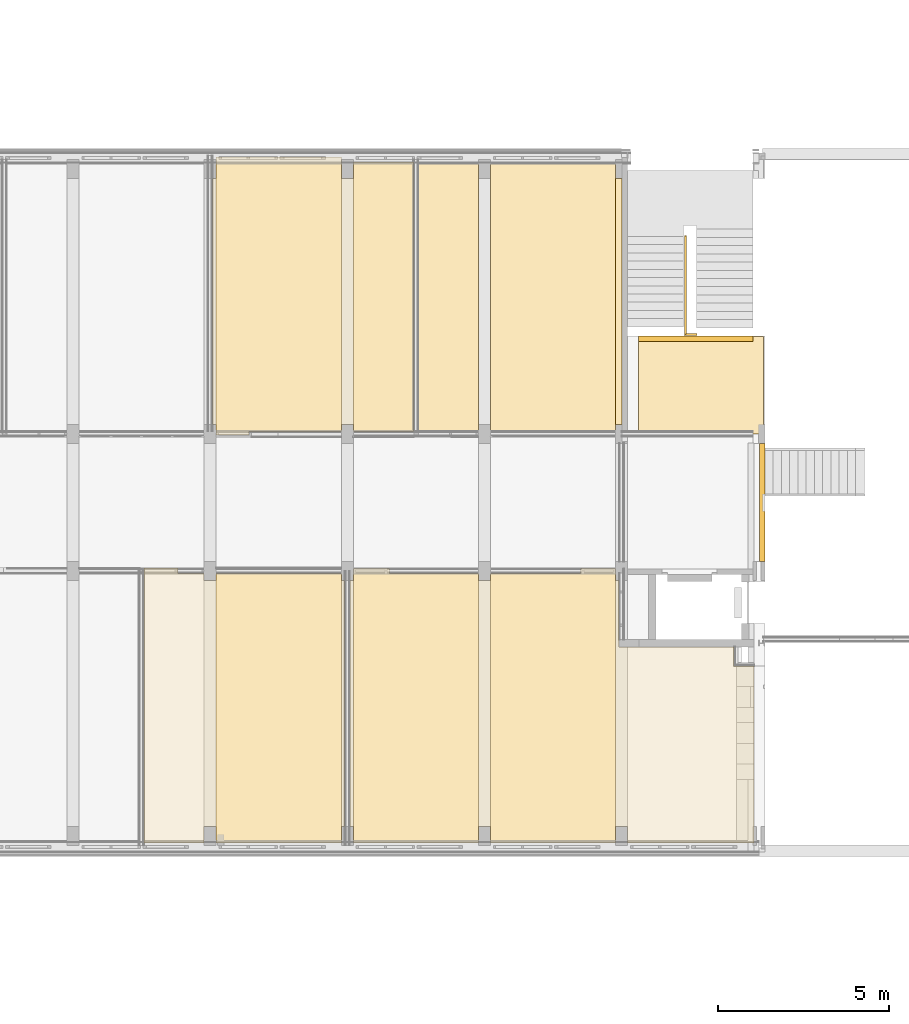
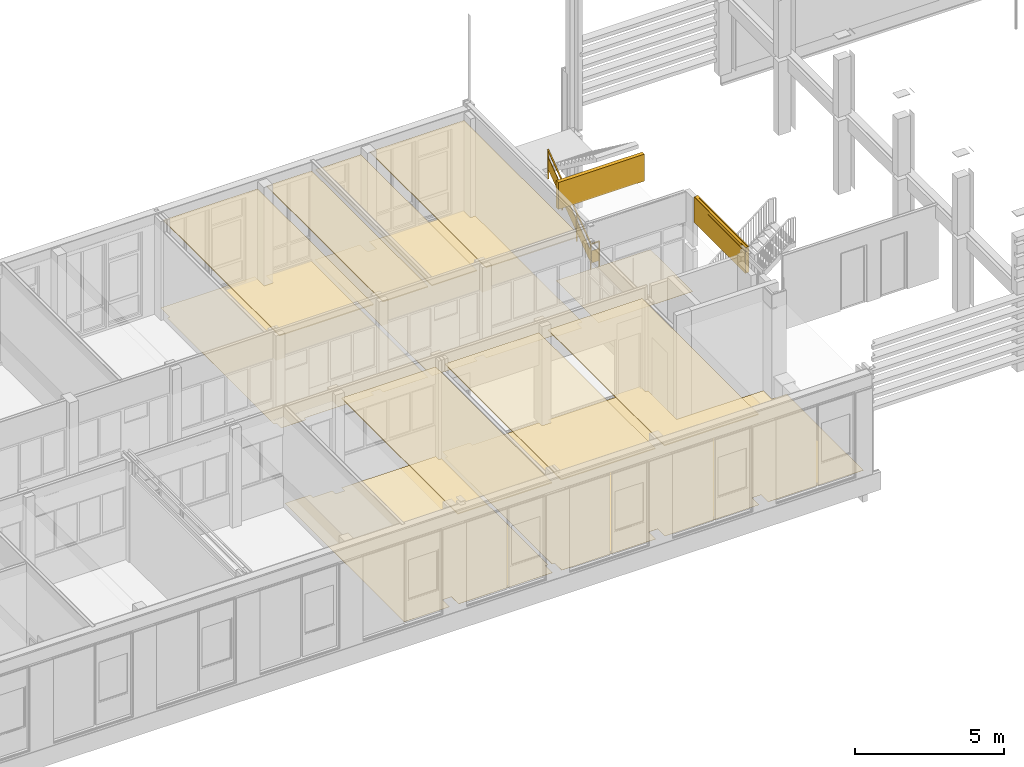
# One storey, part 84 of 94: 14 coverings, 1 railing.
"""IFC2X3 building model written with IfcOpenShell, lengths in millimetres."""

from ifc_helpers import new_model, entity, si_unit, converted_unit, derived_unit, money_unit, direction, frame, origin_with_axes, place, context, subcontext, project, spatial, faceted_brep, material, material_list, type_object, element, save


model = new_model("IFC2X3")

# Units and contexts
model_context = context("Model", 3, precision=0.01, world=origin_with_axes(), true_north=direction((0.0, 1.0)))
body_context = subcontext(model_context, "Body", "Model", "MODEL_VIEW")
ifc_project = project(units=[si_unit("LENGTHUNIT", "METRE", prefix="MILLI"), si_unit("AREAUNIT", "SQUARE_METRE"), si_unit("VOLUMEUNIT", "CUBIC_METRE"), converted_unit("PLANEANGLEUNIT", "DEGREE", entity("IfcPlaneAngleMeasure", 0.0174532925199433), si_unit("PLANEANGLEUNIT", "RADIAN"), dimensions=[0, 0, 0, 0, 0, 0, 0]), money_unit("EUR"), converted_unit("TIMEUNIT", "Year", entity("IfcTimeMeasure", 31557600.0), si_unit("TIMEUNIT", "SECOND"), dimensions=[0, 0, 1, 0, 0, 0, 0]), si_unit("MASSUNIT", "GRAM", prefix="KILO"), si_unit("THERMODYNAMICTEMPERATUREUNIT", "DEGREE_CELSIUS"), si_unit("LUMINOUSINTENSITYUNIT", "LUMEN"), si_unit("ENERGYUNIT", "JOULE", prefix="MEGA"), derived_unit("THERMALCONDUCTANCEUNIT", [(si_unit("POWERUNIT", "WATT"), 1), (si_unit("LENGTHUNIT", "METRE"), -1), (si_unit("THERMODYNAMICTEMPERATUREUNIT", "KELVIN"), -1)]), derived_unit("SPECIFICHEATCAPACITYUNIT", [(si_unit("ENERGYUNIT", "JOULE"), 1), (si_unit("MASSUNIT", "GRAM", prefix="KILO"), -1), (si_unit("THERMODYNAMICTEMPERATUREUNIT", "KELVIN"), -1)]), derived_unit("MASSDENSITYUNIT", [(si_unit("MASSUNIT", "GRAM", prefix="KILO"), 1), (si_unit("VOLUMEUNIT", "CUBIC_METRE"), -1)])], contexts=[model_context])

# Site, building, storey
site_placement = place(None, origin_with_axes())
site = spatial("IfcSite", under=ifc_project, at=site_placement, Name="<site naam>", CompositionType="ELEMENT")
building_placement = place(site_placement, origin_with_axes())
building = spatial("IfcBuilding", under=site, at=building_placement, Name="<Naam gebouw>", CompositionType="ELEMENT")
storey_placement = place(building_placement, frame((0.0, 0.0, 4250.0), z_axis=(0.0, 0.0, 1.0), x_axis=(1.0, 0.0, 0.0)))
storey = spatial("IfcBuildingStorey", under=building, at=storey_placement, Name="01 1e verdieping", CompositionType="ELEMENT", Elevation=4250.0)

# Coverings
ifc_material_1 = material(Name="systeemplafond 600*600 kleur wit")
covering_type_1 = type_object("IfcCoveringType", Name="PA-01a 40", PredefinedType="CEILING")
covering_1_placement = place(storey_placement, frame((43825.00000778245, 7926.689853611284, 3700.0), z_axis=(0.0, 0.0, 1.0), x_axis=(1.0, 0.0, 0.0)))
element("IfcCovering", 1, at=covering_1_placement, inside=storey, type_object=covering_type_1, material=ifc_material_1, Name="45_Vloer_PA-01a", PredefinedType="CEILING", context=body_context, shape_type="Brep", body=[
    faceted_brep([(-3649.999824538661, 0.0, 0.0), (0.0, 0.0, 0.0), (0.0, 0.0, -40.00000000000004), (-3649.999824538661, 0.0, -40.00000000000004), (-3649.999824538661, -7805.291124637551, 0.0), (0.0, -7805.291124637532, 0.0), (0.0, -7805.291124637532, -40.00000000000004), (-3649.999824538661, -7805.291124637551, -40.00000000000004)], [[[0, 1, 2, 3]], [[1, 0, 4, 5]], [[1, 5, 6, 2]], [[3, 2, 6, 7]], [[4, 0, 3, 7]], [[5, 4, 7, 6]]]),
])
covering_2_placement = place(storey_placement, frame((36174.99983398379, 19455.39868278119, 3700.0), z_axis=(0.0, 0.0, 1.0), x_axis=(1.0, 0.0, 0.0)))
element("IfcCovering", 2, at=covering_2_placement, inside=storey, type_object=covering_type_1, material=ifc_material_1, Name="45_Vloer_PA-01a", PredefinedType="CEILING", context=body_context, shape_type="Brep", body=[
    faceted_brep([(0.0, -7363.637768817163, 40.00000000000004), (0.0, -7363.637768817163, 0.0), (3650.000071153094, -7363.637768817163, 0.0), (3650.000071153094, -7363.637768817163, 40.00000000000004), (0.0, 434.0000461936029, 40.00000000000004), (0.0, 434.0000461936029, 0.0), (3650.000071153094, 434.0000461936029, 0.0), (3650.000071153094, 434.0000461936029, 40.00000000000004)], [[[0, 1, 2, 3]], [[4, 5, 1, 0]], [[5, 6, 2, 1]], [[3, 2, 6, 7]], [[4, 0, 3, 7]], [[7, 6, 5, 4]]]),
])
covering_3_placement = place(storey_placement, frame((42074.99986503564, 12080.29523690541, 3700.0), z_axis=(0.0, 0.0, 1.0), x_axis=(1.0, 0.0, 0.0)))
element("IfcCovering", 3, at=covering_3_placement, inside=storey, type_object=covering_type_1, material=ifc_material_1, Name="45_Vloer_PA-01a", PredefinedType="CEILING", context=body_context, shape_type="Brep", body=[
    faceted_brep([(0.0, 0.0, 40.00000000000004), (0.0, 0.0, 0.0), (1750.000134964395, 0.0, 0.0), (1750.000134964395, 0.0, 40.00000000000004), (0.0, 7809.103492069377, 40.00000000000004), (0.0, 7809.103492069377, 0.0), (1750.000134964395, 7809.103492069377, 0.0), (1750.000134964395, 7809.103492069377, 40.00000000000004)], [[[0, 1, 2, 3]], [[4, 5, 1, 0]], [[2, 1, 5, 6]], [[3, 2, 6, 7]], [[4, 0, 3, 7]], [[7, 6, 5, 4]]]),
])
covering_4_placement = place(storey_placement, frame((44175.00006586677, 555.3987640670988, 3700.0), z_axis=(0.0, 0.0, 1.0), x_axis=(1.0, 0.0, 0.0)))
element("IfcCovering", 4, at=covering_4_placement, inside=storey, type_object=covering_type_1, material=ifc_material_1, Name="45_Vloer_PA-01a", PredefinedType="CEILING", context=body_context, shape_type="Brep", body=[
    faceted_brep([(3649.999934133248, -434.0000350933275, 0.0), (0.0, -434.0000350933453, 0.0), (0.0, -434.0000350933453, -40.00000000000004), (3649.999934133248, -434.0000350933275, -40.00000000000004), (0.0, 7371.291150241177, 0.0), (3649.999913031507, 7371.291150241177, 0.0), (0.0, 7371.291150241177, -40.00000000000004), (3649.999913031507, 7371.291150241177, -40.00000000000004)], [[[0, 1, 2, 3]], [[4, 1, 0, 5]], [[1, 4, 6, 2]], [[3, 2, 6, 7]], [[5, 0, 3, 7]], [[4, 5, 7, 6]]]),
])
covering_5_placement = place(storey_placement, frame((39825.00006176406, 7926.689862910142, 3700.0), z_axis=(0.0, 0.0, 1.0), x_axis=(1.0, 0.0, 0.0)))
element("IfcCovering", 5, at=covering_5_placement, inside=storey, type_object=covering_type_1, material=ifc_material_1, Name="45_Vloer_PA-01a", PredefinedType="CEILING", context=body_context, shape_type="Brep", body=[
    faceted_brep([(-3650.00007109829, 0.0, 0.0), (0.0, 0.0, 0.0), (0.0, 0.0, -40.00000000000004), (-3650.00007109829, 0.0, -40.00000000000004), (-3650.00007109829, -7805.291133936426, 0.0), (0.0, -7805.291133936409, 0.0), (0.0, -7805.291133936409, -40.00000000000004), (-3650.00007109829, -7805.291133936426, -40.00000000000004)], [[[0, 1, 2, 3]], [[1, 0, 4, 5]], [[1, 5, 6, 2]], [[3, 2, 6, 7]], [[4, 0, 3, 7]], [[5, 4, 7, 6]]]),
])
covering_6_placement = place(storey_placement, frame((40174.99994574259, 12280.39889847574, 3700.0), z_axis=(0.0, 0.0, 1.0), x_axis=(1.0, 0.0, 0.0)))
element("IfcCovering", 6, at=covering_6_placement, inside=storey, type_object=covering_type_1, material=ifc_material_1, Name="45_Vloer_PA-01a", PredefinedType="CEILING", context=body_context, shape_type="Brep", body=[
    faceted_brep([(0.0, -200.1037069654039, 40.00000000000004), (0.0, -200.1037069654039, 0.0), (1749.999956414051, -200.1037069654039, 0.0), (1749.999956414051, -200.1037069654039, 40.00000000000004), (0.0, 7608.999830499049, 40.00000000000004), (0.0, 7608.999830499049, 0.0), (1749.999956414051, 7608.999830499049, 0.0), (1749.999956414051, 7608.999830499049, 40.00000000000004)], [[[0, 1, 2, 3]], [[4, 5, 1, 0]], [[1, 5, 6, 2]], [[3, 2, 6, 7]], [[0, 3, 7, 4]], [[7, 6, 5, 4]]]),
])
covering_7_placement = place(storey_placement, frame((44175.00000255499, 12280.39897736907, 3700.0), z_axis=(0.0, 0.0, 1.0), x_axis=(1.0, 0.0, 0.0)))
element("IfcCovering", 7, at=covering_7_placement, inside=storey, type_object=covering_type_1, material=ifc_material_1, Name="45_Vloer_PA-01a", PredefinedType="CEILING", context=body_context, shape_type="Brep", body=[
    faceted_brep([(0.0, -200.1037404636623, 40.00000000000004), (0.0, -200.1037404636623, 0.0), (3649.999782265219, -200.1037404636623, 0.0), (3649.999782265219, -200.1037404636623, 40.00000000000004), (0.0, 7608.999751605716, 40.00000000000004), (0.0, 7608.999751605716, 0.0), (3649.999782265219, 7608.999751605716, 0.0), (3649.999782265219, 7608.999751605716, 40.00000000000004)], [[[0, 1, 2, 3]], [[4, 5, 1, 0]], [[1, 5, 6, 2]], [[3, 2, 6, 7]], [[0, 3, 7, 4]], [[7, 6, 5, 4]]]),
])

# Railing
ifc_material_2 = material(Name="staal balustrade")
ifc_material_3 = material(Name="hout AFW")
ifc_material_list = material_list([ifc_material_2, ifc_material_2, ifc_material_2, ifc_material_2, ifc_material_2, ifc_material_2, ifc_material_3, ifc_material_2, ifc_material_3, ifc_material_2, ifc_material_3, ifc_material_2, ifc_material_3])
railing_type = type_object("IfcRailingType", Name="Railing Type", PredefinedType="NOTDEFINED")
railing_placement = place(storey_placement, frame((50190.00000000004, 14849.5, 0.0), z_axis=(0.0, 0.0, 1.0), x_axis=(1.0, 0.0, 0.0)))
element("IfcRailing", 8, at=railing_placement, inside=storey, type_object=railing_type, material=ifc_material_list, Name="34_Reling_", PredefinedType="NOTDEFINED", context=body_context, shape_type="Brep", body=[
    faceted_brep([(-9.99999999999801, 75.00000000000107, -199.9999999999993), (-9.99999999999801, 25.00000000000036, -199.9999999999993), (-9.99999999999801, 25.00000000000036, 980.0000000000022), (-9.99999999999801, 75.00000000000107, 980.0000000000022), (9.99999999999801, 75.00000000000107, -199.9999999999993), (9.99999999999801, 25.00000000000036, -199.9999999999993), (9.99999999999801, 25.00000000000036, 980.0000000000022), (9.99999999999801, 75.00000000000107, 980.0000000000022)], [[[0, 1, 2, 3]], [[0, 4, 5, 1]], [[1, 5, 6, 2]], [[3, 2, 6, 7]], [[4, 0, 3, 7]], [[5, 4, 7, 6]]]),
    faceted_brep([(0.0, 25.00000000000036, 1000.000000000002), (0.0, 25.00000000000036, 970.0000000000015), (9.99999999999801, 25.00000000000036, 970.0000000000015), (9.99999999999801, 25.00000000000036, 1000.000000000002), (0.0, 75.00000000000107, 1000.000000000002), (0.0, 75.00000000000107, 970.0000000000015), (10.00000000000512, 75.00000000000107, 970.0000000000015), (10.00000000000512, 75.00000000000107, 1000.000000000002)], [[[0, 1, 2, 3]], [[0, 4, 5, 1]], [[1, 5, 6, 2]], [[3, 2, 6, 7]], [[4, 0, 3, 7]], [[5, 4, 7, 6]]]),
    faceted_brep([(-339.9999995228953, 75.00000046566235, -184.6467097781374), (-339.9999995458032, 25.00000046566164, -201.0963457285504), (-339.9999995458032, 25.00000046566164, 978.9036542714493), (-339.9999995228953, 75.00000046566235, 995.3532902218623), (-319.9999995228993, 75.00000046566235, -184.6467098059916), (-319.9999995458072, 25.00000046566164, -201.0963457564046), (-319.9999995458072, 25.00000046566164, 978.9036542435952), (-319.9999995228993, 75.00000046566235, 995.3532901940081)], [[[0, 1, 2, 3]], [[0, 4, 5, 1]], [[1, 5, 6, 2]], [[3, 2, 6, 7]], [[4, 0, 3, 7]], [[5, 4, 7, 6]]]),
    faceted_brep([(-305.0000112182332, 2919.999992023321, 1931.878472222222), (-355.0000112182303, 2919.999991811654, 1931.878472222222), (-355.0000112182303, 2919.999991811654, 3111.878472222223), (-305.0000112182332, 2919.999992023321, 3111.878472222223), (-305.0000111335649, 2899.999992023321, 1917.121527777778), (-355.0000111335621, 2899.999991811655, 1917.121527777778), (-355.0000111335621, 2899.999991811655, 3097.121527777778), (-305.0000111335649, 2899.999992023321, 3097.121527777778)], [[[0, 1, 2, 3]], [[0, 4, 5, 1]], [[1, 5, 6, 2]], [[3, 2, 6, 7]], [[4, 0, 3, 7]], [[5, 4, 7, 6]]]),
    faceted_brep([(-305.000011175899, 2909.999991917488, 3124.5), (-305.000011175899, 2927.811684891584, 3100.359917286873), (-305.000011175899, 2935.858379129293, 3106.297148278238), (-305.000011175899, 2918.046686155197, 3130.437230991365), (-355.0000111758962, 2909.999991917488, 3124.5), (-355.0000111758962, 2927.811684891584, 3100.359917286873), (-355.0000111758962, 2935.858379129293, 3106.297148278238), (-355.0000111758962, 2918.046686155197, 3130.437230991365)], [[[0, 1, 2, 3]], [[0, 4, 5, 1]], [[1, 5, 6, 2]], [[3, 2, 6, 7]], [[4, 0, 3, 7]], [[5, 4, 7, 6]]]),
    faceted_brep([(-327.694957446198, 75.00000000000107, 969.9999999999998), (-309.8832644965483, 75.00000000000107, 1000.0), (0.0, 75.00000000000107, 1000.0), (0.0, 75.00000000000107, 969.9999999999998), (-350.1167355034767, 25.00000000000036, 1000.0), (-367.9284284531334, 25.00000000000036, 969.9999999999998), (0.0, 25.00000000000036, 1000.0), (0.0, 25.00000000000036, 969.9999999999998)], [[[0, 1, 2, 3]], [[4, 1, 0, 5]], [[1, 4, 6, 2]], [[6, 7, 3, 2]], [[5, 0, 3, 7]], [[4, 5, 7, 6]]]),
    faceted_brep([(-320.0000000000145, 40.00000000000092, 200.0000000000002), (-9.99999999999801, 40.00000000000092, 200.0000000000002), (-9.99999999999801, 40.00000000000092, 700.0000000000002), (-320.0000000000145, 40.00000000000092, 700.0000000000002), (-9.99999999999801, 60.0000000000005, 200.0000000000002), (-320.0000000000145, 60.0000000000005, 200.0000000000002), (-9.99999999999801, 60.0000000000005, 700.0000000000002), (-320.0000000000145, 60.0000000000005, 700.0000000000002)], [[[0, 1, 2, 3]], [[4, 1, 0, 5]], [[6, 2, 1, 4]], [[3, 2, 6, 7]], [[0, 3, 7, 5]], [[6, 4, 5, 7]]]),
    faceted_brep([(-304.9999991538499, 70.11673747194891, 1029.100022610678), (-304.9999992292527, 87.92843042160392, 1004.959939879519), (-305.0000112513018, 2927.81168503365, 3100.359917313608), (-305.000011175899, 2909.999992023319, 3124.5), (-354.9999990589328, 47.69495920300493, 975.273784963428), (-354.99999898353, 29.88326625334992, 999.4138676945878), (-355.000011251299, 2927.811684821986, 3100.359917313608), (-355.0000111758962, 2909.999991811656, 3124.5)], [[[0, 1, 2, 3]], [[4, 1, 0, 5]], [[1, 4, 6, 2]], [[2, 6, 7, 3]], [[5, 0, 3, 7]], [[4, 5, 7, 6]]]),
    faceted_brep([(-340.0000030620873, 993.3333312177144, 910.2928240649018), (-339.9999991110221, 60.00000088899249, 221.6354167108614), (-339.9999991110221, 60.00000088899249, 721.6354167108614), (-340.0000030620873, 993.3333312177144, 1410.292824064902), (-319.9999991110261, 60.00000097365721, 221.6354167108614), (-320.0000030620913, 993.3333313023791, 910.2928240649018), (-319.9999991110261, 60.00000097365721, 721.6354167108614), (-320.0000030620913, 993.3333313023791, 1410.292824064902)], [[[0, 1, 2, 3]], [[4, 1, 0, 5]], [[6, 2, 1, 4]], [[3, 2, 6, 7]], [[0, 3, 7, 5]], [[6, 4, 5, 7]]]),
    faceted_brep([(-305.0000031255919, 1008.333331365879, 521.3605324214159), (-355.0000031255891, 1008.333331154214, 521.3605324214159), (-355.0000031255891, 1008.333331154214, 1721.360532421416), (-305.0000031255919, 1008.333331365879, 1721.360532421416), (-305.0000030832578, 998.3333313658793, 513.9820601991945), (-355.000003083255, 998.333331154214, 513.9820601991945), (-355.000003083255, 998.333331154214, 1713.982060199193), (-305.0000030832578, 998.3333313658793, 1713.982060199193)], [[[0, 1, 2, 3]], [[0, 4, 5, 1]], [[1, 5, 6, 2]], [[3, 2, 6, 7]], [[4, 0, 3, 7]], [[5, 4, 7, 6]]]),
    faceted_brep([(-340.000007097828, 1946.666661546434, 1613.707175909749), (-340.0000031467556, 1013.333331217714, 925.0497685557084), (-340.0000031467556, 1013.333331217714, 1425.049768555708), (-340.000007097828, 1946.666661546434, 2113.707175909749), (-320.0000031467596, 1013.333331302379, 925.0497685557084), (-320.0000070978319, 1946.666661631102, 1613.707175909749), (-320.0000031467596, 1013.333331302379, 1425.049768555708), (-320.0000070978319, 1946.666661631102, 2113.707175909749)], [[[0, 1, 2, 3]], [[4, 1, 0, 5]], [[6, 2, 1, 4]], [[3, 2, 6, 7]], [[0, 3, 7, 5]], [[6, 4, 5, 7]]]),
    faceted_brep([(-305.0000071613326, 1961.666661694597, 1224.774884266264), (-355.0000071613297, 1961.666661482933, 1224.774884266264), (-355.0000071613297, 1961.666661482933, 2424.774884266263), (-305.0000071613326, 1961.666661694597, 2424.774884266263), (-305.0000071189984, 1951.666661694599, 1217.396412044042), (-355.0000071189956, 1951.666661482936, 1217.396412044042), (-355.0000071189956, 1951.666661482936, 2417.396412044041), (-305.0000071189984, 1951.666661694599, 2417.396412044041)], [[[0, 1, 2, 3]], [[0, 4, 5, 1]], [[1, 5, 6, 2]], [[3, 2, 6, 7]], [[4, 0, 3, 7]], [[5, 4, 7, 6]]]),
    faceted_brep([(-340.0000111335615, 2899.999991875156, 2317.121527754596), (-340.0000071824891, 1966.666661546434, 1628.464120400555), (-340.0000071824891, 1966.666661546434, 2128.464120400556), (-340.0000111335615, 2899.999991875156, 2817.121527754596), (-320.0000071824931, 1966.666661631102, 1628.464120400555), (-320.0000111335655, 2899.999991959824, 2317.121527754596), (-320.0000071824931, 1966.666661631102, 2128.464120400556), (-320.0000111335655, 2899.999991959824, 2817.121527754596)], [[[0, 1, 2, 3]], [[4, 1, 0, 5]], [[6, 2, 1, 4]], [[3, 2, 6, 7]], [[0, 3, 7, 5]], [[6, 4, 5, 7]]]),
])

# Coverings
ifc_material_4 = material(Name="Behoud natuursteen tegels")
covering_type_2 = type_object("IfcCoveringType", Name="VA-06 3", PredefinedType="CEILING")
covering_8_placement = place(storey_placement, frame((48485.10733893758, 11994.60127102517, 0.0), z_axis=(0.0, 0.0, 1.0), x_axis=(1.0, 0.0, 0.0)))
element("IfcCovering", 9, at=covering_8_placement, inside=storey, type_object=covering_type_2, material=ifc_material_4, Name="43_Vloer_VA-06", PredefinedType="CEILING", context=body_context, shape_type="Brep", body=[
    faceted_brep([(0.0, 0.0, 3.000000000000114), (0.0, 0.0, 0.0), (3650.353887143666, 0.0, 0.0), (3650.353887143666, 0.0, 3.000000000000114), (0.0, 2849.499999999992, 3.000000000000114), (0.0, 2849.499999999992, 0.0), (3650.353887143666, 2849.499999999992, 0.0), (3650.353887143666, 2849.499999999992, 3.000000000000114)], [[[0, 1, 2, 3]], [[4, 5, 1, 0]], [[2, 1, 5, 6]], [[3, 2, 6, 7]], [[4, 0, 3, 7]], [[7, 6, 5, 4]]]),
])
ifc_material_5 = material(Name="Vinyl type 01a")
covering_type_3 = type_object("IfcCoveringType", Name="VA-01a 3", PredefinedType="CEILING")
covering_9_placement = place(storey_placement, frame((34075.0001417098, 7922.875169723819, 19.99999999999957), z_axis=(0.0, 0.0, 1.0), x_axis=(1.0, 0.0, 0.0)))
element("IfcCovering", 10, at=covering_9_placement, inside=storey, type_object=covering_type_3, material=ifc_material_5, Name="43_Vloer_VA-01a", PredefinedType="CEILING", context=body_context, shape_type="Brep", body=[
    faceted_brep([(0.0, -7847.892061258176, 3.000000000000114), (0.0, -7847.892061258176, 0.0), (1749.999918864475, -7847.892061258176, 0.0), (1749.999918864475, -7847.892061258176, 3.000000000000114), (0.0, 162.1248302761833, 3.000000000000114), (0.0, 162.1248302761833, 0.0), (992.2704905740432, 162.1248302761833, 0.0), (992.2704905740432, 0.1534304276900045, 0.0), (1749.999918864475, 0.2705036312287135, 0.0), (1750.03054191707, -197.9292517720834, 0.0), (2100.030549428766, -197.8752460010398, 0.0), (2099.999926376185, 0.3245094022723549, 0.0), (5749.999902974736, 0.88854330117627, 0.0), (5749.999902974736, -197.8752460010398, 0.0), (5849.999837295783, -197.8752460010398, 0.0), (5849.999837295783, -7372.875103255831, 0.0), (5749.999902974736, -7372.875103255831, 0.0), (5749.999902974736, -7847.892061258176, 0.0), (2099.999926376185, -7847.892061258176, 0.0), (2099.831855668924, -7372.875221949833, 0.0), (1749.831729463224, -7372.999138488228, 0.0), (1749.831729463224, -7372.999138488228, 3.000000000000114), (2099.831855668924, -7372.875221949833, 3.000000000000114), (2099.999926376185, -7847.892061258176, 3.000000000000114), (5749.999902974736, -7847.892061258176, 3.000000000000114), (5749.999902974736, -7372.875103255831, 3.000000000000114), (5849.999837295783, -7372.875103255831, 3.000000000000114), (5849.999837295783, -197.8752460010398, 3.000000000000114), (5749.999902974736, -197.8752460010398, 3.000000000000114), (5749.999902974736, 0.88854330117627, 3.000000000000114), (2099.999926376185, 0.3245094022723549, 3.000000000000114), (2100.030549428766, -197.8752460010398, 3.000000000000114), (1750.03054191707, -197.9292517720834, 3.000000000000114), (1749.999918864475, 0.2705036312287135, 3.000000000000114), (992.2704905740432, 0.1534304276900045, 3.000000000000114), (992.2704905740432, 162.1248302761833, 3.000000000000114)], [[[0, 1, 2, 3]], [[4, 5, 1, 0]], [[1, 5, 6, 7, 8, 9, 10, 11, 12, 13, 14, 15, 16, 17, 18, 19, 20, 2]], [[3, 2, 20, 21]], [[4, 0, 3, 21, 22, 23, 24, 25, 26, 27, 28, 29, 30, 31, 32, 33, 34, 35]], [[35, 6, 5, 4]], [[34, 7, 6, 35]], [[33, 8, 7, 34]], [[32, 9, 8, 33]], [[31, 10, 9, 32]], [[30, 11, 10, 31]], [[29, 12, 11, 30]], [[28, 13, 12, 29]], [[27, 14, 13, 28]], [[26, 15, 14, 27]], [[25, 16, 15, 26]], [[24, 17, 16, 25]], [[23, 18, 17, 24]], [[22, 19, 18, 23]], [[21, 20, 19, 22]]]),
])
covering_10_placement = place(storey_placement, frame((40174.84544567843, 7724.999905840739, 0.0), z_axis=(0.0, 0.0, 1.0), x_axis=(1.0, 0.0, 0.0)))
element("IfcCovering", 11, at=covering_10_placement, inside=storey, type_object=covering_type_3, material=ifc_material_5, Name="43_Vloer_VA-01a", PredefinedType="CEILING", context=body_context, shape_type="Brep", body=[
    faceted_brep([(0.0, 0.0, 3.000000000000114), (0.0, 0.0, 0.0), (-100.0000087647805, 0.0, 0.0), (-100.0000087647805, 0.0, 3.000000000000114), (0.0, 350.0001239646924, 3.000000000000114), (0.0, 350.0001239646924, 0.0), (1058.317738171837, 350.0001239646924, 0.0), (1058.317738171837, 198.9814997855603, 0.0), (3650.000040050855, 199.382078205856, 0.0), (3650.030638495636, -0.05392043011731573, 0.0), (4000.030762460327, 0.0, 0.0), (3999.999977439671, 199.4359986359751, 0.0), (6627.399806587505, 199.842174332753, 0.0), (6627.399806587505, 350.0001239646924, 0.0), (7650.000017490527, 350.0001239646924, 0.0), (7650.000017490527, 200.0002041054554, 0.0), (7650.011585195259, 200.0002041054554, 0.0), (7650.042556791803, 0.0, 0.0), (7750.000026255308, 0.0, 0.0), (7750.000026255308, -1933.999919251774, 0.0), (11107.65455432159, -1933.999919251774, 0.0), (11107.65455432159, -2496.499919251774, 0.0), (11689.99999843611, -2496.499919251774, 0.0), (11689.99999843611, -7650.016809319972, 0.0), (8000.000141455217, -7650.016809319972, 0.0), (8000.000141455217, -7174.999835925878, 0.0), (7650.000017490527, -7174.999835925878, 0.0), (7650.000017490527, -7650.016809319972, 0.0), (3999.999977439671, -7650.016809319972, 0.0), (3999.999977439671, -7174.999835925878, 0.0), (3650.000040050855, -7174.999835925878, 0.0), (3650.000040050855, -7650.016809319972, 0.0), (0.0, -7650.016809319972, 0.0), (0.0, -7174.999835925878, 0.0), (-100.0000087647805, -7174.999835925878, 0.0), (-100.0000087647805, -7174.999835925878, 3.000000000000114), (0.0, -7174.999835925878, 3.000000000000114), (0.0, -7650.016809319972, 3.000000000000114), (3650.000040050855, -7650.016809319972, 3.000000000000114), (3650.000040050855, -7174.999835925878, 3.000000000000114), (3999.999977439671, -7174.999835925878, 3.000000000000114), (3999.999977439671, -7650.016809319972, 3.000000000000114), (7650.000017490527, -7650.016809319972, 3.000000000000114), (7650.000017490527, -7174.999835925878, 3.000000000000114), (8000.000141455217, -7174.999835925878, 3.000000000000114), (8000.000141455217, -7650.016809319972, 3.000000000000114), (11689.99999843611, -7650.016809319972, 3.000000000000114), (11689.99999843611, -2496.499919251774, 3.000000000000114), (11107.65455432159, -2496.499919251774, 3.000000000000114), (11107.65455432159, -1933.999919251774, 3.000000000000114), (7750.000026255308, -1933.999919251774, 3.000000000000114), (7750.000026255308, 0.0, 3.000000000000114), (7650.042556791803, 0.0, 3.000000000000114), (7650.011585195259, 200.0002041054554, 3.000000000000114), (7650.000017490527, 200.0002041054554, 3.000000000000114), (7650.000017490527, 350.0001239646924, 3.000000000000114), (6627.399806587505, 350.0001239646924, 3.000000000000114), (6627.399806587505, 199.842174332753, 3.000000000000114), (3999.999977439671, 199.4359986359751, 3.000000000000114), (4000.030762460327, 0.0, 3.000000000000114), (3650.030638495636, -0.05392043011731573, 3.000000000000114), (3650.000040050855, 199.382078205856, 3.000000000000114), (1058.317738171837, 198.9814997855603, 3.000000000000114), (1058.317738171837, 350.0001239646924, 3.000000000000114)], [[[0, 1, 2, 3]], [[4, 5, 1, 0]], [[2, 1, 5, 6, 7, 8, 9, 10, 11, 12, 13, 14, 15, 16, 17, 18, 19, 20, 21, 22, 23, 24, 25, 26, 27, 28, 29, 30, 31, 32, 33, 34]], [[3, 2, 34, 35]], [[0, 3, 35, 36, 37, 38, 39, 40, 41, 42, 43, 44, 45, 46, 47, 48, 49, 50, 51, 52, 53, 54, 55, 56, 57, 58, 59, 60, 61, 62, 63, 4]], [[63, 6, 5, 4]], [[62, 7, 6, 63]], [[61, 8, 7, 62]], [[60, 9, 8, 61]], [[59, 10, 9, 60]], [[58, 11, 10, 59]], [[57, 12, 11, 58]], [[56, 13, 12, 57]], [[55, 14, 13, 56]], [[54, 15, 14, 55]], [[53, 16, 15, 54]], [[52, 17, 16, 53]], [[51, 18, 17, 52]], [[50, 19, 18, 51]], [[49, 20, 19, 50]], [[48, 21, 20, 49]], [[47, 22, 21, 48]], [[46, 23, 22, 47]], [[45, 24, 23, 46]], [[44, 25, 24, 45]], [[43, 26, 25, 44]], [[42, 27, 26, 43]], [[41, 28, 27, 42]], [[40, 29, 28, 41]], [[39, 30, 29, 40]], [[38, 31, 30, 39]], [[37, 32, 31, 38]], [[36, 33, 32, 37]], [[35, 34, 33, 36]]]),
])
covering_11_placement = place(storey_placement, frame((42075.00002827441, 19925.00013617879, 19.99999999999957), z_axis=(0.0, 0.0, 1.0), x_axis=(1.0, 0.0, 0.0)))
element("IfcCovering", 12, at=covering_11_placement, inside=storey, type_object=covering_type_3, material=ifc_material_5, Name="43_Vloer_VA-01a", PredefinedType="CEILING", context=body_context, shape_type="Brep", body=[
    faceted_brep([(0.0, 0.0, 3.000000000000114), (0.0, 0.0, 0.0), (0.0, -7850.103451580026, 0.0), (0.0, -7850.103451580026, 3.000000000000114), (1749.99999058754, 0.0, 3.000000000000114), (1749.99999058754, 0.0, 0.0), (1749.99999058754, -475.0001649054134, 0.0), (2100.000012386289, -475.0001649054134, 0.0), (2100.000012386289, 0.0, 0.0), (5749.999952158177, 0.0, 0.0), (5749.999952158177, -475.0001649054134, 0.0), (5940.077811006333, -475.0001649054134, 0.0), (5940.077811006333, -7650.000138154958, 0.0), (5749.999952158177, -7650.000138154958, 0.0), (5749.999952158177, -7946.099280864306, 0.0), (4800.111161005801, -7946.099280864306, 0.0), (4800.111161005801, -7850.103451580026, 0.0), (2100.000012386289, -7850.103451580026, 0.0), (2100.000012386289, -7650.000138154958, 0.0), (1749.99999058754, -7650.000138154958, 0.0), (1749.99999058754, -7850.103451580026, 0.0), (1749.99999058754, -7850.103451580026, 3.000000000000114), (1749.99999058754, -7650.000138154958, 3.000000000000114), (2100.000012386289, -7650.000138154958, 3.000000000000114), (2100.000012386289, -7850.103451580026, 3.000000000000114), (4800.111161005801, -7850.103451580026, 3.000000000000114), (4800.111161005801, -7946.099280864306, 3.000000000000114), (5749.999952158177, -7946.099280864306, 3.000000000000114), (5749.999952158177, -7650.000138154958, 3.000000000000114), (5940.077811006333, -7650.000138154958, 3.000000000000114), (5940.077811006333, -475.0001649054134, 3.000000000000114), (5749.999952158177, -475.0001649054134, 3.000000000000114), (5749.999952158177, 0.0, 3.000000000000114), (2100.000012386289, 0.0, 3.000000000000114), (2100.000012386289, -475.0001649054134, 3.000000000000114), (1749.99999058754, -475.0001649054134, 3.000000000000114)], [[[0, 1, 2, 3]], [[4, 5, 1, 0]], [[2, 1, 5, 6, 7, 8, 9, 10, 11, 12, 13, 14, 15, 16, 17, 18, 19, 20]], [[3, 2, 20, 21]], [[4, 0, 3, 21, 22, 23, 24, 25, 26, 27, 28, 29, 30, 31, 32, 33, 34, 35]], [[35, 6, 5, 4]], [[34, 7, 6, 35]], [[33, 8, 7, 34]], [[32, 9, 8, 33]], [[31, 10, 9, 32]], [[30, 11, 10, 31]], [[29, 12, 11, 30]], [[28, 13, 12, 29]], [[27, 14, 13, 28]], [[26, 15, 14, 27]], [[25, 16, 15, 26]], [[24, 17, 16, 25]], [[23, 18, 17, 24]], [[22, 19, 18, 23]], [[21, 20, 19, 22]]]),
])
covering_12_placement = place(storey_placement, frame((36075.00012382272, 12275.00012242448, 19.99999999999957), z_axis=(0.0, 0.0, 1.0), x_axis=(1.0, 0.0, 0.0)))
element("IfcCovering", 13, at=covering_12_placement, inside=storey, type_object=covering_type_3, material=ifc_material_5, Name="43_Vloer_VA-01a", PredefinedType="CEILING", context=body_context, shape_type="Brep", body=[
    faceted_brep([(0.0, 0.0, 3.000000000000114), (0.0, 0.0, 0.0), (99.99988743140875, 0.0, 0.0), (99.99988743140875, 0.0, 3.000000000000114), (0.0, 7174.999872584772, 3.000000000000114), (0.0, 7174.999872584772, 0.0), (99.99988743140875, 7174.999872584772, 0.0), (99.99988743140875, 7796.516774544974, 0.0), (3749.999812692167, 7796.516774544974, 0.0), (3749.999812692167, 7174.999872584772, 0.0), (4099.999774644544, 7174.999872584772, 0.0), (4099.999774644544, 7650.000049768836, 0.0), (5850.000058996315, 7650.000049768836, 0.0), (5850.000058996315, -200.1035914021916, 0.0), (4099.999774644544, -200.1035914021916, 0.0), (4099.999774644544, 0.0, 0.0), (3749.999812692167, 0.0, 0.0), (3749.999812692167, -200.1035914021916, 0.0), (1056.519208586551, -200.1035914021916, 0.0), (1056.519208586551, -312.2895235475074, 0.0), (99.99988743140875, -312.2895235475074, 0.0), (99.99988743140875, -312.2895235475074, 3.000000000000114), (1056.519208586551, -312.2895235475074, 3.000000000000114), (1056.519208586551, -200.1035914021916, 3.000000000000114), (3749.999812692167, -200.1035914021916, 3.000000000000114), (3749.999812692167, 0.0, 3.000000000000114), (4099.999774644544, 0.0, 3.000000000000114), (4099.999774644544, -200.1035914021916, 3.000000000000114), (5850.000058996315, -200.1035914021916, 3.000000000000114), (5850.000058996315, 7650.000049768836, 3.000000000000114), (4099.999774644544, 7650.000049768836, 3.000000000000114), (4099.999774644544, 7174.999872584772, 3.000000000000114), (3749.999812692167, 7174.999872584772, 3.000000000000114), (3749.999812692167, 7796.516774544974, 3.000000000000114), (99.99988743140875, 7796.516774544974, 3.000000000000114), (99.99988743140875, 7174.999872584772, 3.000000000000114)], [[[0, 1, 2, 3]], [[4, 5, 1, 0]], [[2, 1, 5, 6, 7, 8, 9, 10, 11, 12, 13, 14, 15, 16, 17, 18, 19, 20]], [[3, 2, 20, 21]], [[4, 0, 3, 21, 22, 23, 24, 25, 26, 27, 28, 29, 30, 31, 32, 33, 34, 35]], [[35, 6, 5, 4]], [[34, 7, 6, 35]], [[33, 8, 7, 34]], [[32, 9, 8, 33]], [[31, 10, 9, 32]], [[30, 11, 10, 31]], [[29, 12, 11, 30]], [[28, 13, 12, 29]], [[27, 14, 13, 28]], [[26, 15, 14, 27]], [[25, 16, 15, 26]], [[24, 17, 16, 25]], [[23, 18, 17, 24]], [[22, 19, 18, 23]], [[21, 20, 19, 22]]]),
])
ifc_material_6 = material(Name="aftimmering/koven multiplex")
covering_type_4 = type_object("IfcCoveringType", Name="aftimmering/koven multiplex 1100", PredefinedType="CEILING")
covering_13_placement = place(storey_placement, frame((51825.00000000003, 14850.00000000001, 3000.0), z_axis=(0.0, 0.0, 1.0), x_axis=(1.0, 0.0, 0.0)))
element("IfcCovering", 14, at=covering_13_placement, inside=storey, type_object=covering_type_4, material=ifc_material_6, Name="45_Vloer_aftimmering/koven", PredefinedType="CEILING", context=body_context, shape_type="Brep", body=[
    faceted_brep([(0.0, 0.0, 1100.000000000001), (0.0, 0.0, 0.0), (-3339.470515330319, 0.0, 0.0), (-3339.470515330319, 0.0, 1100.000000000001), (0.0, -150.0000036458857, 1100.000000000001), (0.0, -150.0000036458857, 0.0), (-3339.470515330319, -150.0000036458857, 0.0), (-3339.470515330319, -150.0000036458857, 1100.000000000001)], [[[0, 1, 2, 3]], [[4, 5, 1, 0]], [[2, 1, 5, 6]], [[3, 2, 6, 7]], [[4, 0, 3, 7]], [[7, 6, 5, 4]]]),
])
ifc_material_7 = material(Name="koven gips")
covering_type_5 = type_object("IfcCoveringType", Name="koven gips 1060", PredefinedType="CEILING")
covering_14_placement = place(storey_placement, frame((52024.35855763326, 11725.00000000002, 3040.0), z_axis=(0.0, 0.0, 1.0), x_axis=(1.0, 0.0, 0.0)))
element("IfcCovering", 15, at=covering_14_placement, inside=storey, type_object=covering_type_5, material=ifc_material_7, Name="45_Vloer_koven", PredefinedType="CEILING", context=body_context, shape_type="Brep", body=[
    faceted_brep([(8.291275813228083, 0.0, 1045.99993879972), (8.291275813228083, 0.0, 894.0000386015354), (0.0, 0.0, 894.0000386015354), (0.0, 0.0, 1045.99993879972), (8.291275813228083, -3449.999999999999, 894.0000386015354), (8.291275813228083, -3449.999999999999, 1045.99993879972), (0.0, -3449.999999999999, 894.0000386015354), (0.0, -3449.999999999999, 1045.99993879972)], [[[0, 1, 2, 3]], [[4, 1, 0, 5]], [[6, 2, 1, 4]], [[6, 7, 3, 2]], [[5, 0, 3, 7]], [[4, 5, 7, 6]]]),
    faceted_brep([(16.79127581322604, 0.0, 894.0000386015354), (16.79127581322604, 0.0, 1045.99993879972), (102.5412878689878, 0.0, 1045.99993879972), (102.5412898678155, 0.0, 1060.000018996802), (150.0414423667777, 0.0, 1060.0), (150.0414423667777, 0.0, 0.0), (0.0, 0.0, 0.0), (0.0, 0.0, 879.9999584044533), (102.5412898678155, 0.0, 879.9999584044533), (102.5412878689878, 0.0, 894.0000386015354), (16.79127581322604, -3449.999999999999, 1045.99993879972), (16.79127581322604, -3449.999999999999, 894.0000386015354), (102.5412878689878, -3449.999999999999, 1045.99993879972), (102.5412898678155, -3449.999999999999, 1060.000018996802), (150.0414423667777, -3449.999999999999, 1060.0), (150.0414423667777, -3449.999999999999, 0.0), (0.0, -3449.999999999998, 0.0), (0.0, -3449.999999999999, 879.9999584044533), (102.5412898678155, -3449.999999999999, 879.9999584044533), (102.5412878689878, -3449.999999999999, 894.0000386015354)], [[[0, 1, 2, 3, 4, 5, 6, 7, 8, 9]], [[10, 1, 0, 11]], [[12, 2, 1, 10]], [[12, 13, 3, 2]], [[4, 3, 13, 14]], [[4, 14, 15, 5]], [[15, 16, 6, 5]], [[16, 17, 7, 6]], [[18, 8, 7, 17]], [[19, 9, 8, 18]], [[11, 0, 9, 19]], [[19, 18, 17, 16, 15, 14, 13, 12, 10, 11]]]),
])

save(model, "model.ifc")
